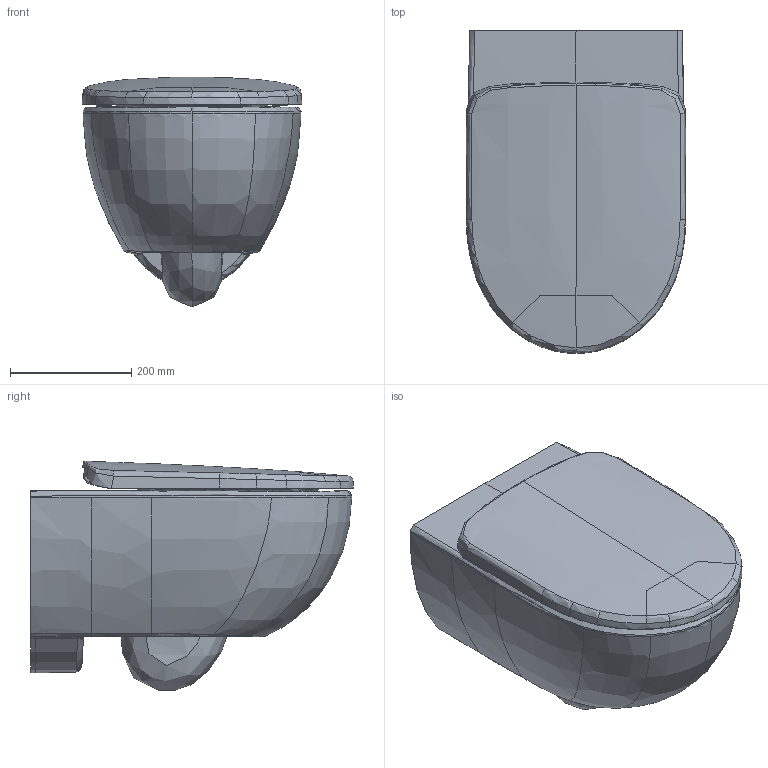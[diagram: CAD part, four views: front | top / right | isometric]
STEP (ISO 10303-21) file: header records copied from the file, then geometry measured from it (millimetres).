
FILE_DESCRIPTION(/* description */ (''),/* implementation_level */ '2;1');
FILE_NAME(/* name */ 'C:\Planerdaten\Export PLA\501.991.00.1\stp\502793.stp',/* time_stamp */ '2022-12-16T11:54:56+01:00',/* author */ ('JANAN'),/* organization */ (''),/* preprocessor_version */ 'ST-DEVELOPER v18.1',/* originating_system */ 'Autodesk Inventor 2021',/* authorisation */ '');
FILE_SCHEMA (('AUTOMOTIVE_DESIGN { 1 0 10303 214 3 1 1 }'));
Products named in the file (1): tmp757.tmp
Bounding box: 362.49 x 532.55 x 378.88 mm (x, y, z)
Volume: 27039881.4 mm3; surface area: 1358548.6 mm2
Topology: 3 solids, 3 shells, 716 faces, 1750 edges, 1025 vertices
Faces by surface type: bspline 515, plane 56, cone 54, torus 41, cylinder 38, sphere 12
Full cylindrical faces by diameter (mm): 11.2 x2, 15 x2, 27 x2, 56 x1, 86 x1
Entity records: 155060 total; most frequent: CARTESIAN_POINT 141191, ORIENTED_EDGE 3452, EDGE_CURVE 1726, DIRECTION 1644, VERTEX_POINT 1025, B_SPLINE_CURVE_WITH_KNOTS 1012, AXIS2_PLACEMENT_3D 744, EDGE_LOOP 735
